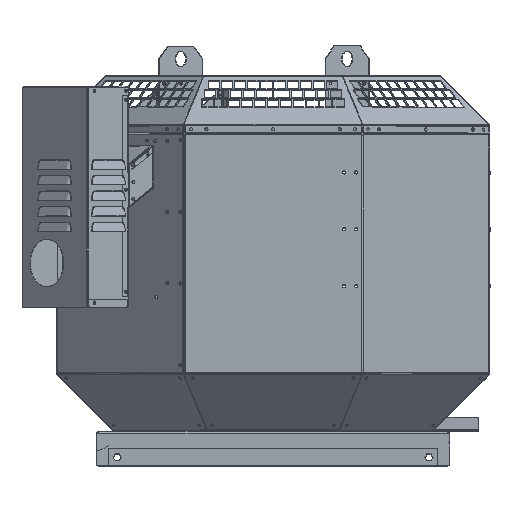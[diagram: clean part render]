
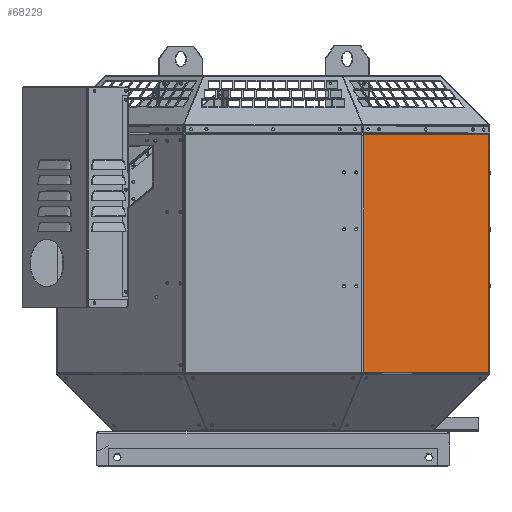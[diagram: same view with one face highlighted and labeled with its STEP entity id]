
A CAD part, top view. The second image highlights one B-rep face of the part: STEP entity #68229.
In plain terms, the highlighted planar face has unit normal (0.707, 0, 0.707).
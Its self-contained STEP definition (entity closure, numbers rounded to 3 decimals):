
#423 = DIRECTION ( 'NONE',  ( -0.707, 0., 0.707 ) ) ;
#478 = DIRECTION ( 'NONE',  ( 0., 1., 0. ) ) ;
#4498 = EDGE_CURVE ( 'NONE', #44136, #73961, #84733, .T. ) ;
#9731 = VECTOR ( 'NONE', #96671, 1000. ) ;
#9929 = EDGE_CURVE ( 'NONE', #73961, #34195, #92008, .T. ) ;
#10682 = EDGE_CURVE ( 'NONE', #44136, #80551, #90694, .T. ) ;
#11218 = CARTESIAN_POINT ( 'NONE',  ( 283.245, 408.402, 119.099 ) ) ;
#11775 = CARTESIAN_POINT ( 'NONE',  ( 119.099, 408.402, 283.245 ) ) ;
#15410 = EDGE_CURVE ( 'NONE', #36883, #49417, #73218, .T. ) ;
#16616 = CARTESIAN_POINT ( 'NONE',  ( 283.245, 408.402, 119.099 ) ) ;
#17197 = LINE ( 'NONE', #56760, #54523 ) ;
#20993 = CARTESIAN_POINT ( 'NONE',  ( 118.781, 408.402, 283.563 ) ) ;
#21586 = ORIENTED_EDGE ( 'NONE', *, *, #56357, .T. ) ;
#22624 = CARTESIAN_POINT ( 'NONE',  ( 118.781, 422.402, 283.563 ) ) ;
#22972 = CARTESIAN_POINT ( 'NONE',  ( 283.245, 422.402, 119.099 ) ) ;
#23084 = ORIENTED_EDGE ( 'NONE', *, *, #4498, .T. ) ;
#25222 = VECTOR ( 'NONE', #61221, 1000. ) ;
#25876 = ORIENTED_EDGE ( 'NONE', *, *, #80679, .F. ) ;
#28931 = PLANE ( 'NONE',  #33844 ) ;
#31164 = VECTOR ( 'NONE', #51151, 1000. ) ;
#31269 = VECTOR ( 'NONE', #45131, 1000. ) ;
#31372 = VECTOR ( 'NONE', #89113, 1000. ) ;
#31927 = LINE ( 'NONE', #59422, #9731 ) ;
#33844 = AXIS2_PLACEMENT_3D ( 'NONE', #66040, #81078, #36458 ) ;
#34195 = VERTEX_POINT ( 'NONE', #34561 ) ;
#34561 = CARTESIAN_POINT ( 'NONE',  ( 283.245, 410.409, 119.099 ) ) ;
#36458 = DIRECTION ( 'NONE',  ( 0.707, 0., -0.707 ) ) ;
#36883 = VERTEX_POINT ( 'NONE', #20993 ) ;
#37345 = LINE ( 'NONE', #45090, #94538 ) ;
#39173 = ORIENTED_EDGE ( 'NONE', *, *, #74759, .F. ) ;
#40981 = ORIENTED_EDGE ( 'NONE', *, *, #15410, .T. ) ;
#42997 = CARTESIAN_POINT ( 'NONE',  ( 283.563, 422.402, 118.781 ) ) ;
#44136 = VERTEX_POINT ( 'NONE', #69925 ) ;
#45090 = CARTESIAN_POINT ( 'NONE',  ( 284.207, 97.802, 118.137 ) ) ;
#45131 = DIRECTION ( 'NONE',  ( 0., -1., 0. ) ) ;
#45543 = EDGE_CURVE ( 'NONE', #74948, #36883, #17197, .T. ) ;
#46864 = EDGE_LOOP ( 'NONE', ( #25876, #21586, #67166, #40981, #39173, #90473, #23084, #67971 ) ) ;
#49417 = VERTEX_POINT ( 'NONE', #89470 ) ;
#51151 = DIRECTION ( 'NONE',  ( 0., -1., 0. ) ) ;
#51594 = CARTESIAN_POINT ( 'NONE',  ( 119.099, 422.402, 283.245 ) ) ;
#53557 = LINE ( 'NONE', #51594, #31372 ) ;
#54523 = VECTOR ( 'NONE', #64237, 1000. ) ;
#56357 = EDGE_CURVE ( 'NONE', #61058, #74948, #53557, .T. ) ;
#56760 = CARTESIAN_POINT ( 'NONE',  ( 119.099, 408.402, 283.245 ) ) ;
#59422 = CARTESIAN_POINT ( 'NONE',  ( 284.207, 410.409, 118.137 ) ) ;
#61058 = VERTEX_POINT ( 'NONE', #90289 ) ;
#61221 = DIRECTION ( 'NONE',  ( -0.707, 0., 0.707 ) ) ;
#64237 = DIRECTION ( 'NONE',  ( -0.707, 0., 0.707 ) ) ;
#66040 = CARTESIAN_POINT ( 'NONE',  ( 284.207, 422.402, 118.137 ) ) ;
#67166 = ORIENTED_EDGE ( 'NONE', *, *, #45543, .T. ) ;
#67971 = ORIENTED_EDGE ( 'NONE', *, *, #9929, .T. ) ;
#68229 = ADVANCED_FACE ( 'NONE', ( #78584 ), #28931, .T. ) ;
#69925 = CARTESIAN_POINT ( 'NONE',  ( 283.563, 408.402, 118.781 ) ) ;
#73218 = LINE ( 'NONE', #22624, #31269 ) ;
#73961 = VERTEX_POINT ( 'NONE', #11218 ) ;
#74759 = EDGE_CURVE ( 'NONE', #80551, #49417, #37345, .T. ) ;
#74948 = VERTEX_POINT ( 'NONE', #11775 ) ;
#78584 = FACE_OUTER_BOUND ( 'NONE', #46864, .T. ) ;
#79976 = CARTESIAN_POINT ( 'NONE',  ( 283.563, 97.802, 118.781 ) ) ;
#80551 = VERTEX_POINT ( 'NONE', #79976 ) ;
#80679 = EDGE_CURVE ( 'NONE', #61058, #34195, #31927, .T. ) ;
#81078 = DIRECTION ( 'NONE',  ( 0.707, 0., 0.707 ) ) ;
#84733 = LINE ( 'NONE', #16616, #25222 ) ;
#89113 = DIRECTION ( 'NONE',  ( 0., -1., 0. ) ) ;
#89470 = CARTESIAN_POINT ( 'NONE',  ( 118.781, 97.802, 283.563 ) ) ;
#90289 = CARTESIAN_POINT ( 'NONE',  ( 119.099, 410.409, 283.245 ) ) ;
#90473 = ORIENTED_EDGE ( 'NONE', *, *, #10682, .F. ) ;
#90694 = LINE ( 'NONE', #42997, #31164 ) ;
#92008 = LINE ( 'NONE', #22972, #94364 ) ;
#94364 = VECTOR ( 'NONE', #478, 1000. ) ;
#94538 = VECTOR ( 'NONE', #423, 1000. ) ;
#96671 = DIRECTION ( 'NONE',  ( 0.707, 0., -0.707 ) ) ;
